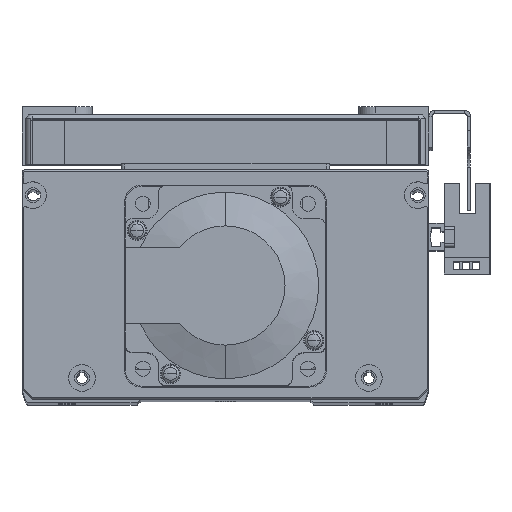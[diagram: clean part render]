
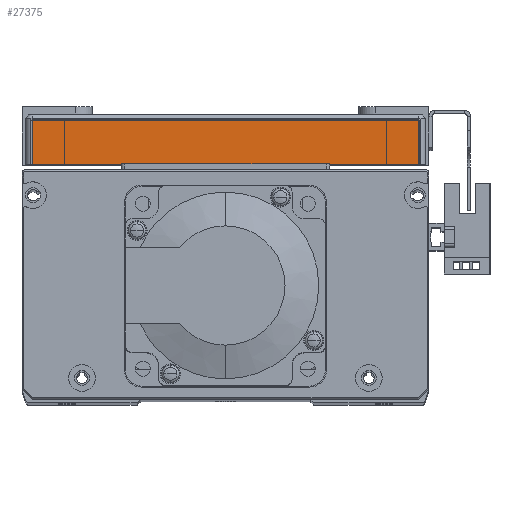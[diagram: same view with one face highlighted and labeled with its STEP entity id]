
A CAD part, top view. The second image highlights one B-rep face of the part: STEP entity #27375.
In plain terms, the highlighted planar face has unit normal (0, 0, 1) as drawn and (1, 0, 0) by its records, which use the part's own axes.
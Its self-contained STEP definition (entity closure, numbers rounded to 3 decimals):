
#6813 = EDGE_CURVE ( 'NONE', #21450, #21408, #7464, .T. ) ;
#6827 = EDGE_CURVE ( 'NONE', #21408, #21407, #7402, .T. ) ;
#6895 = EDGE_CURVE ( 'NONE', #21407, #21420, #7580, .T. ) ;
#6912 = EDGE_CURVE ( 'NONE', #21420, #21450, #7534, .T. ) ;
#7402 = LINE ( 'NONE', #15069, #7405 ) ;
#7405 = VECTOR ( 'NONE', #15062, 1000. ) ;
#7460 = VECTOR ( 'NONE', #14998, 1000. ) ;
#7464 = LINE ( 'NONE', #15008, #7460 ) ;
#7534 = LINE ( 'NONE', #15278, #7554 ) ;
#7554 = VECTOR ( 'NONE', #15266, 1000. ) ;
#7572 = VECTOR ( 'NONE', #15232, 1000. ) ;
#7580 = LINE ( 'NONE', #15229, #7572 ) ;
#11408 = FACE_OUTER_BOUND ( 'NONE', #32836, .T. ) ;
#14998 = DIRECTION ( 'NONE',  ( 0., 1., 0. ) ) ;
#15008 = CARTESIAN_POINT ( 'NONE',  ( 82.5, 15., -58. ) ) ;
#15062 = DIRECTION ( 'NONE',  ( 0., 0., 1. ) ) ;
#15069 = CARTESIAN_POINT ( 'NONE',  ( 82.5, 14., 58. ) ) ;
#15229 = CARTESIAN_POINT ( 'NONE',  ( 82.5, 15., 58. ) ) ;
#15232 = DIRECTION ( 'NONE',  ( 0., -1., 0. ) ) ;
#15266 = DIRECTION ( 'NONE',  ( 0., 0., -1. ) ) ;
#15278 = CARTESIAN_POINT ( 'NONE',  ( 82.5, 0., -60. ) ) ;
#16299 = AXIS2_PLACEMENT_3D ( 'NONE', #45290, #45207, #45297 ) ;
#21407 = VERTEX_POINT ( 'NONE', #34747 ) ;
#21408 = VERTEX_POINT ( 'NONE', #34718 ) ;
#21420 = VERTEX_POINT ( 'NONE', #34714 ) ;
#21450 = VERTEX_POINT ( 'NONE', #34705 ) ;
#25466 = ORIENTED_EDGE ( 'NONE', *, *, #6912, .T. ) ;
#25568 = ORIENTED_EDGE ( 'NONE', *, *, #6813, .T. ) ;
#25584 = ORIENTED_EDGE ( 'NONE', *, *, #6827, .T. ) ;
#25698 = ORIENTED_EDGE ( 'NONE', *, *, #6895, .T. ) ;
#27375 = ADVANCED_FACE ( 'NONE', ( #11408 ), #45285, .F. ) ;
#32836 = EDGE_LOOP ( 'NONE', ( #25568, #25584, #25698, #25466 ) ) ;
#34705 = CARTESIAN_POINT ( 'NONE',  ( 82.5, 0., -58. ) ) ;
#34714 = CARTESIAN_POINT ( 'NONE',  ( 82.5, 0., 58. ) ) ;
#34718 = CARTESIAN_POINT ( 'NONE',  ( 82.5, 14., -58. ) ) ;
#34747 = CARTESIAN_POINT ( 'NONE',  ( 82.5, 14., 58. ) ) ;
#45207 = DIRECTION ( 'NONE',  ( -1., 0., 0. ) ) ;
#45285 = PLANE ( 'NONE',  #16299 ) ;
#45290 = CARTESIAN_POINT ( 'NONE',  ( 82.5, 15., -60. ) ) ;
#45297 = DIRECTION ( 'NONE',  ( 0., 0., 1. ) ) ;
